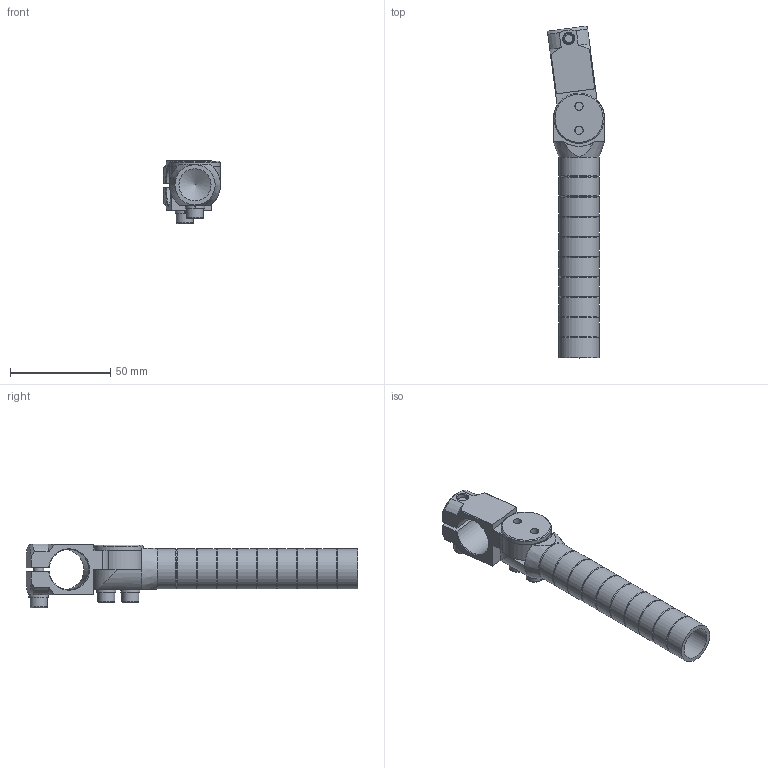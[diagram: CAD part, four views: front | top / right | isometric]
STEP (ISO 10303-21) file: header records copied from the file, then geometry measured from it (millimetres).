
FILE_DESCRIPTION(/* description */ ('Elbow Gripper Arm'),/* implementation_level */ '2;1');
FILE_NAME(/* name */ 'EGA-20-20-100.STEP',/* time_stamp */ '2026-02-10T14:23:53-05:00',/* author */ ('Design2'),/* organization */ ('CCS Design LLC'),/* preprocessor_version */ 'ST-DEVELOPER v20',/* originating_system */ 'Autodesk Inventor 2025',/* authorisation */ '');
FILE_SCHEMA (('AUTOMOTIVE_DESIGN { 1 0 10303 214 3 1 1 }'));
Length unit declared in the file: inch
Products named in the file (7): EGA-20-20-100 ; M-EGA-20-100-S; M-EGA-20-H; M-EGA-20-I; ANSI B18.3.1M - M5x0.8 x 25; ANSI B18.3.1M - M5x0.8 x 20; ANSI B18.21.1 - 0.216
Assembly tree (9 placements, depth 2):
  EGA-20-20-100 
    M-EGA-20-100-S
    M-EGA-20-H
    M-EGA-20-I
    ANSI B18.3.1M - M5x0.8 x 20  x2
    ANSI B18.3.1M - M5x0.8 x 25
    ANSI B18.21.1 - 0.216  x3
Bounding box: 28.42 x 165.21 x 31.67 mm (x, y, z)
Volume: 35304.2 mm3; surface area: 25860.8 mm2
Topology: 9 solids, 9 shells, 161 faces, 396 edges, 256 vertices
Faces by surface type: plane 61, cylinder 50, cone 44, torus 6
Full cylindrical faces by diameter (mm): 4.14 x3, 5 x3, 5.512 x3, 8.5 x3, 16 x1, 20 x14, 25 x1
Entity records: 4369 total; most frequent: CARTESIAN_POINT 815, DIRECTION 750, ORIENTED_EDGE 666, EDGE_CURVE 333, AXIS2_PLACEMENT_3D 305, VERTEX_POINT 216, EDGE_LOOP 155, CIRCLE 151
